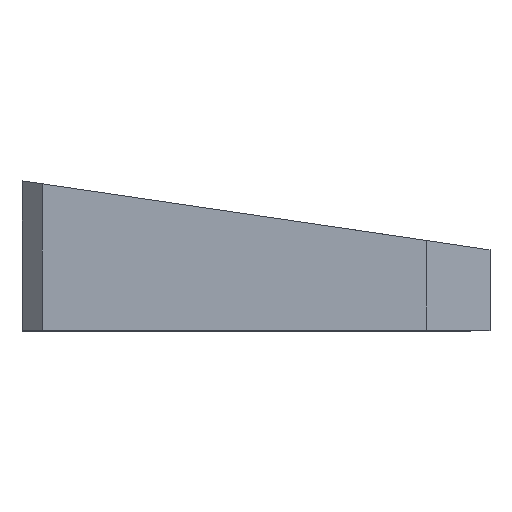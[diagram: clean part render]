
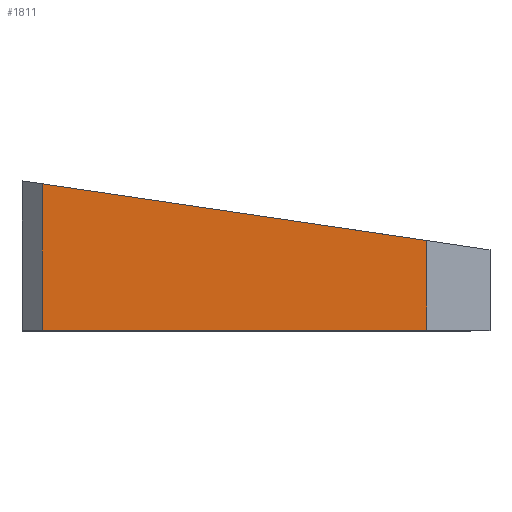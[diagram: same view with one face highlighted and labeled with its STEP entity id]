
A CAD part, top view. The second image highlights one B-rep face of the part: STEP entity #1811.
In plain terms, the highlighted planar face has unit normal (0, 0, 1).
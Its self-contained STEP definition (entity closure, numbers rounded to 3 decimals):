
#18 = PLANE ( 'NONE',  #336 ) ;
#27 = FACE_OUTER_BOUND ( 'NONE', #1962, .T. ) ;
#36 = VERTEX_POINT ( 'NONE', #1050 ) ;
#56 = LINE ( 'NONE', #280, #1620 ) ;
#76 = ORIENTED_EDGE ( 'NONE', *, *, #1217, .T. ) ;
#92 = VECTOR ( 'NONE', #1737, 1000. ) ;
#193 = DIRECTION ( 'NONE',  ( 0., -1., 0. ) ) ;
#280 = CARTESIAN_POINT ( 'NONE',  ( 33.5, 0., 39. ) ) ;
#336 = AXIS2_PLACEMENT_3D ( 'NONE', #1449, #1445, #1281 ) ;
#348 = EDGE_CURVE ( 'NONE', #36, #561, #1738, .T. ) ;
#527 = LINE ( 'NONE', #1142, #1995 ) ;
#561 = VERTEX_POINT ( 'NONE', #1485 ) ;
#714 = ORIENTED_EDGE ( 'NONE', *, *, #788, .T. ) ;
#788 = EDGE_CURVE ( 'NONE', #1203, #1416, #56, .T. ) ;
#1050 = CARTESIAN_POINT ( 'NONE',  ( 0., 12.742, 39. ) ) ;
#1140 = VECTOR ( 'NONE', #193, 1000. ) ;
#1142 = CARTESIAN_POINT ( 'NONE',  ( 0., 6., 39. ) ) ;
#1203 = VERTEX_POINT ( 'NONE', #1617 ) ;
#1217 = EDGE_CURVE ( 'NONE', #36, #1203, #527, .T. ) ;
#1246 = CARTESIAN_POINT ( 'NONE',  ( -1.75, 13., 39. ) ) ;
#1281 = DIRECTION ( 'NONE',  ( -1., 0., 0. ) ) ;
#1416 = VERTEX_POINT ( 'NONE', #1417 ) ;
#1417 = CARTESIAN_POINT ( 'NONE',  ( 33.5, 0., 39. ) ) ;
#1445 = DIRECTION ( 'NONE',  ( 0., 0., -1. ) ) ;
#1449 = CARTESIAN_POINT ( 'NONE',  ( 33.5, 6., 39. ) ) ;
#1485 = CARTESIAN_POINT ( 'NONE',  ( 33.5, 7.81, 39. ) ) ;
#1489 = DIRECTION ( 'NONE',  ( 0., -1., 0. ) ) ;
#1617 = CARTESIAN_POINT ( 'NONE',  ( 0., 0., 39. ) ) ;
#1620 = VECTOR ( 'NONE', #1862, 1000. ) ;
#1624 = ORIENTED_EDGE ( 'NONE', *, *, #348, .F. ) ;
#1737 = DIRECTION ( 'NONE',  ( 0.989, -0.146, 0. ) ) ;
#1738 = LINE ( 'NONE', #1246, #92 ) ;
#1770 = ORIENTED_EDGE ( 'NONE', *, *, #1840, .F. ) ;
#1779 = CARTESIAN_POINT ( 'NONE',  ( 33.5, 6., 39. ) ) ;
#1801 = LINE ( 'NONE', #1779, #1140 ) ;
#1811 = ADVANCED_FACE ( 'NONE', ( #27 ), #18, .F. ) ;
#1840 = EDGE_CURVE ( 'NONE', #561, #1416, #1801, .T. ) ;
#1862 = DIRECTION ( 'NONE',  ( 1., 0., 0. ) ) ;
#1962 = EDGE_LOOP ( 'NONE', ( #1770, #1624, #76, #714 ) ) ;
#1995 = VECTOR ( 'NONE', #1489, 1000. ) ;
